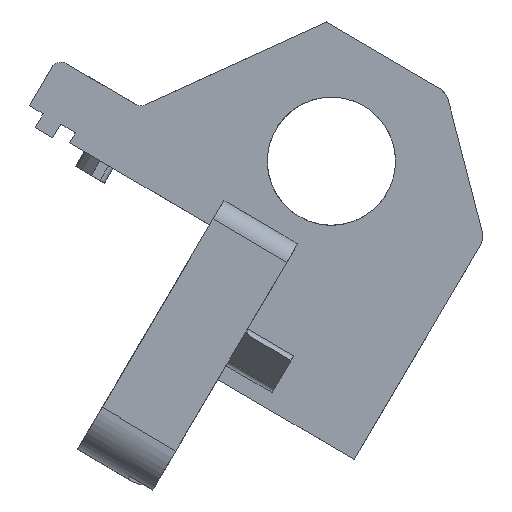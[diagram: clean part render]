
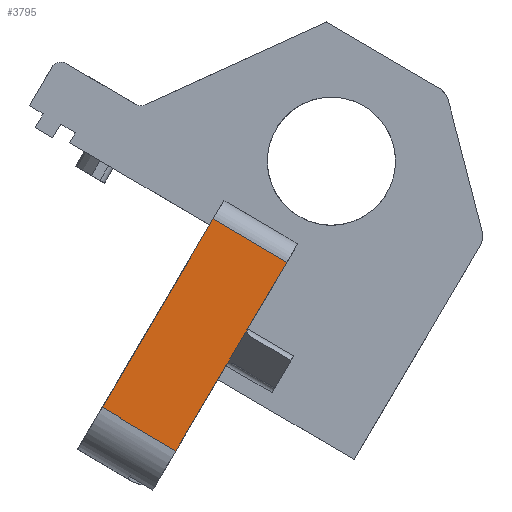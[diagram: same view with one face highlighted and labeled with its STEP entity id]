
A CAD part, front view. The second image highlights one B-rep face of the part: STEP entity #3795.
In plain terms, the highlighted planar face has unit normal (0, -1, 0).
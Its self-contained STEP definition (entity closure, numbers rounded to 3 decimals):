
#3651=AXIS2_PLACEMENT_3D('Circle Axis2P3D',#3649,#3650,$) ;
#3750=AXIS2_PLACEMENT_3D('Plane Axis2P3D',#3747,#3748,#3749) ;
#3350=CARTESIAN_POINT('Vertex',(-178.915,-785.001,321.867)) ;
#3353=CARTESIAN_POINT('Line Origine',(-173.731,-785.001,330.675)) ;
#3357=CARTESIAN_POINT('Vertex',(-168.548,-785.,339.483)) ;
#3473=CARTESIAN_POINT('Line Origine',(-156.868,-785.,332.61)) ;
#3477=CARTESIAN_POINT('Vertex',(-161.653,-785.,335.426)) ;
#3639=CARTESIAN_POINT('Vertex',(-172.05,-785.001,317.758)) ;
#3642=CARTESIAN_POINT('Line Origine',(-167.264,-785.001,314.942)) ;
#3646=CARTESIAN_POINT('Vertex',(-177.221,-785.001,320.801)) ;
#3649=CARTESIAN_POINT('Axis2P3D Location',(-177.221,-780.501,320.801)) ;
#3653=CARTESIAN_POINT('Vertex',(-177.176,-785.,320.877)) ;
#3657=CARTESIAN_POINT('Control Point',(-178.915,-785.,321.867)) ;
#3658=CARTESIAN_POINT('Control Point',(-178.335,-785.,321.537)) ;
#3659=CARTESIAN_POINT('Control Point',(-177.756,-785.,321.207)) ;
#3660=CARTESIAN_POINT('Control Point',(-177.176,-785.,320.877)) ;
#3689=CARTESIAN_POINT('Vertex',(-165.317,-785.,329.2)) ;
#3747=CARTESIAN_POINT('Axis2P3D Location',(-155.601,-785.,334.763)) ;
#3752=CARTESIAN_POINT('Line Origine',(-169.698,-785.001,321.756)) ;
#3756=CARTESIAN_POINT('Vertex',(-167.345,-785.001,325.753)) ;
#3759=CARTESIAN_POINT('Line Origine',(-167.219,-785.001,325.968)) ;
#3763=CARTESIAN_POINT('Vertex',(-167.092,-785.001,326.184)) ;
#3766=CARTESIAN_POINT('Line Origine',(-166.331,-785.001,327.477)) ;
#3770=CARTESIAN_POINT('Vertex',(-165.57,-785.001,328.769)) ;
#3773=CARTESIAN_POINT('Line Origine',(-165.444,-785.001,328.985)) ;
#3778=CARTESIAN_POINT('Line Origine',(-163.485,-785.,332.313)) ;
#3354=DIRECTION('Vector Direction',(-0.507,0.,-0.862)) ;
#3474=DIRECTION('Vector Direction',(0.862,0.,-0.507)) ;
#3643=DIRECTION('Vector Direction',(-0.862,0.,0.507)) ;
#3650=DIRECTION('Axis2P3D Direction',(-0.862,0.,0.507)) ;
#3748=DIRECTION('Axis2P3D Direction',(0.,-1.,0.)) ;
#3749=DIRECTION('Axis2P3D XDirection',(0.964,0.,-0.266)) ;
#3753=DIRECTION('Vector Direction',(-0.507,0.,-0.862)) ;
#3760=DIRECTION('Vector Direction',(-0.507,0.,-0.862)) ;
#3767=DIRECTION('Vector Direction',(-0.507,0.,-0.862)) ;
#3774=DIRECTION('Vector Direction',(-0.507,0.,-0.862)) ;
#3779=DIRECTION('Vector Direction',(-0.507,0.,-0.862)) ;
#3355=VECTOR('Line Direction',#3354,1.) ;
#3475=VECTOR('Line Direction',#3474,1.) ;
#3644=VECTOR('Line Direction',#3643,1.) ;
#3754=VECTOR('Line Direction',#3753,1.) ;
#3761=VECTOR('Line Direction',#3760,1.) ;
#3768=VECTOR('Line Direction',#3767,1.) ;
#3775=VECTOR('Line Direction',#3774,1.) ;
#3780=VECTOR('Line Direction',#3779,1.) ;
#3784=ORIENTED_EDGE('',*,*,#3655,.F.) ;
#3785=ORIENTED_EDGE('',*,*,#3648,.F.) ;
#3786=ORIENTED_EDGE('',*,*,#3758,.F.) ;
#3787=ORIENTED_EDGE('',*,*,#3765,.T.) ;
#3788=ORIENTED_EDGE('',*,*,#3772,.F.) ;
#3789=ORIENTED_EDGE('',*,*,#3777,.T.) ;
#3790=ORIENTED_EDGE('',*,*,#3782,.F.) ;
#3791=ORIENTED_EDGE('',*,*,#3479,.T.) ;
#3792=ORIENTED_EDGE('',*,*,#3359,.T.) ;
#3793=ORIENTED_EDGE('',*,*,#3661,.T.) ;
#3795=ADVANCED_FACE('MANIFOLD_SOLID_BREP #407',(#3794),#3751,.T.) ;
#3656=B_SPLINE_CURVE_WITH_KNOTS('',3,(#3657,#3658,#3659,#3660),.UNSPECIFIED.,.F.,.U.,(4,4),(0.,3.464),.UNSPECIFIED.) ;
#3652=CIRCLE('generated circle',#3651,4.5) ;
#3359=EDGE_CURVE('',#3358,#3351,#3356,.T.) ;
#3479=EDGE_CURVE('',#3478,#3358,#3476,.F.) ;
#3648=EDGE_CURVE('',#3640,#3647,#3645,.T.) ;
#3655=EDGE_CURVE('',#3647,#3654,#3652,.T.) ;
#3661=EDGE_CURVE('',#3351,#3654,#3656,.T.) ;
#3758=EDGE_CURVE('',#3757,#3640,#3755,.T.) ;
#3765=EDGE_CURVE('',#3757,#3764,#3762,.F.) ;
#3772=EDGE_CURVE('',#3771,#3764,#3769,.T.) ;
#3777=EDGE_CURVE('',#3771,#3690,#3776,.F.) ;
#3782=EDGE_CURVE('',#3478,#3690,#3781,.T.) ;
#3783=EDGE_LOOP('',(#3784,#3785,#3786,#3787,#3788,#3789,#3790,#3791,#3792,#3793)) ;
#3794=FACE_OUTER_BOUND('',#3783,.T.) ;
#3356=LINE('Line',#3353,#3355) ;
#3476=LINE('Line',#3473,#3475) ;
#3645=LINE('Line',#3642,#3644) ;
#3755=LINE('Line',#3752,#3754) ;
#3762=LINE('Line',#3759,#3761) ;
#3769=LINE('Line',#3766,#3768) ;
#3776=LINE('Line',#3773,#3775) ;
#3781=LINE('Line',#3778,#3780) ;
#3751=PLANE('Plane',#3750) ;
#3351=VERTEX_POINT('',#3350) ;
#3358=VERTEX_POINT('',#3357) ;
#3478=VERTEX_POINT('',#3477) ;
#3640=VERTEX_POINT('',#3639) ;
#3647=VERTEX_POINT('',#3646) ;
#3654=VERTEX_POINT('',#3653) ;
#3690=VERTEX_POINT('',#3689) ;
#3757=VERTEX_POINT('',#3756) ;
#3764=VERTEX_POINT('',#3763) ;
#3771=VERTEX_POINT('',#3770) ;
